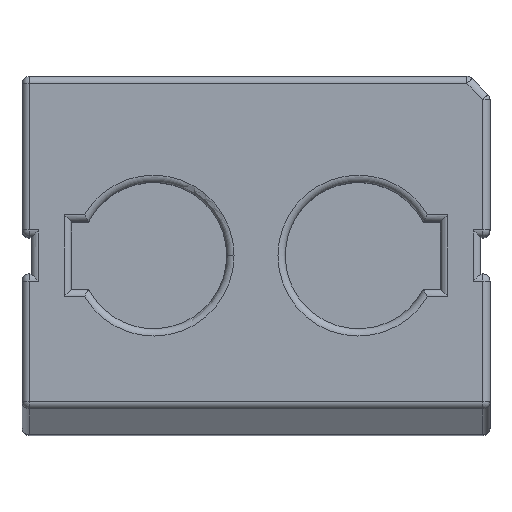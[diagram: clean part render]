
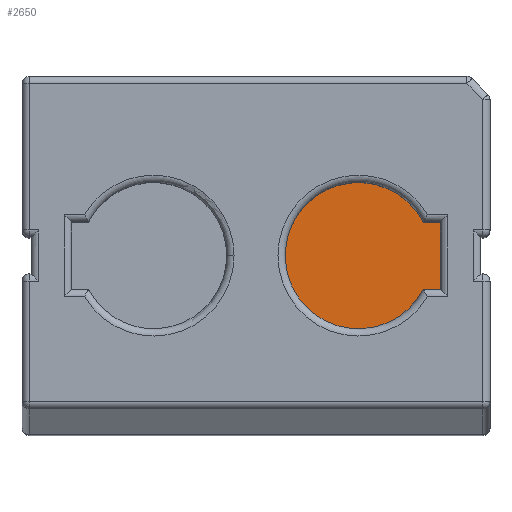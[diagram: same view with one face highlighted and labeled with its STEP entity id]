
A CAD part, top view. The second image highlights one B-rep face of the part: STEP entity #2650.
In plain terms, the highlighted planar face has unit normal (0, 0, 1).
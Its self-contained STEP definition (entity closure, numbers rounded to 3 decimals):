
#173 = LINE ( 'NONE', #3543, #1952 ) ;
#231 = VECTOR ( 'NONE', #1034, 1000. ) ;
#289 = EDGE_CURVE ( 'NONE', #4833, #1029, #2938, .T. ) ;
#339 = ORIENTED_EDGE ( 'NONE', *, *, #3263, .T. ) ;
#390 = LINE ( 'NONE', #2306, #4344 ) ;
#548 = VERTEX_POINT ( 'NONE', #4469 ) ;
#575 = CARTESIAN_POINT ( 'NONE',  ( 2.288, -0.46, 5.5 ) ) ;
#738 = ORIENTED_EDGE ( 'NONE', *, *, #1264, .F. ) ;
#759 = DIRECTION ( 'NONE',  ( 0., -1., 0. ) ) ;
#1029 = VERTEX_POINT ( 'NONE', #575 ) ;
#1034 = DIRECTION ( 'NONE',  ( 1., 0., 0. ) ) ;
#1264 = EDGE_CURVE ( 'NONE', #4833, #4828, #3318, .T. ) ;
#1358 = DIRECTION ( 'NONE',  ( 1., 0., 0. ) ) ;
#1411 = CARTESIAN_POINT ( 'NONE',  ( 0., 0.46, 5.5 ) ) ;
#1416 = DIRECTION ( 'NONE',  ( 0., 0., 1. ) ) ;
#1441 = CARTESIAN_POINT ( 'NONE',  ( 2.288, 0.46, 5.5 ) ) ;
#1649 = FACE_OUTER_BOUND ( 'NONE', #2696, .T. ) ;
#1952 = VECTOR ( 'NONE', #2404, 1000. ) ;
#2067 = EDGE_CURVE ( 'NONE', #4828, #548, #390, .T. ) ;
#2137 = CARTESIAN_POINT ( 'NONE',  ( 1.4, 0., 5.5 ) ) ;
#2184 = CARTESIAN_POINT ( 'NONE',  ( 0., 0., 5.5 ) ) ;
#2224 = ORIENTED_EDGE ( 'NONE', *, *, #289, .T. ) ;
#2306 = CARTESIAN_POINT ( 'NONE',  ( 2.521, 0., 5.5 ) ) ;
#2404 = DIRECTION ( 'NONE',  ( 1., 0., 0. ) ) ;
#2526 = ORIENTED_EDGE ( 'NONE', *, *, #2067, .F. ) ;
#2650 = ADVANCED_FACE ( 'NONE', ( #1649 ), #3654, .T. ) ;
#2663 = CARTESIAN_POINT ( 'NONE',  ( 2.521, 0.46, 5.5 ) ) ;
#2696 = EDGE_LOOP ( 'NONE', ( #738, #2224, #339, #2526 ) ) ;
#2938 = CIRCLE ( 'NONE', #3590, 1. ) ;
#3041 = AXIS2_PLACEMENT_3D ( 'NONE', #2184, #1416, #1358 ) ;
#3263 = EDGE_CURVE ( 'NONE', #1029, #548, #173, .T. ) ;
#3295 = DIRECTION ( 'NONE',  ( 0., 0., 1. ) ) ;
#3318 = LINE ( 'NONE', #1411, #231 ) ;
#3543 = CARTESIAN_POINT ( 'NONE',  ( 0., -0.46, 5.5 ) ) ;
#3590 = AXIS2_PLACEMENT_3D ( 'NONE', #2137, #3295, #3683 ) ;
#3654 = PLANE ( 'NONE',  #3041 ) ;
#3683 = DIRECTION ( 'NONE',  ( 1., 0., 0. ) ) ;
#4344 = VECTOR ( 'NONE', #759, 1000. ) ;
#4469 = CARTESIAN_POINT ( 'NONE',  ( 2.521, -0.46, 5.5 ) ) ;
#4828 = VERTEX_POINT ( 'NONE', #2663 ) ;
#4833 = VERTEX_POINT ( 'NONE', #1441 ) ;
